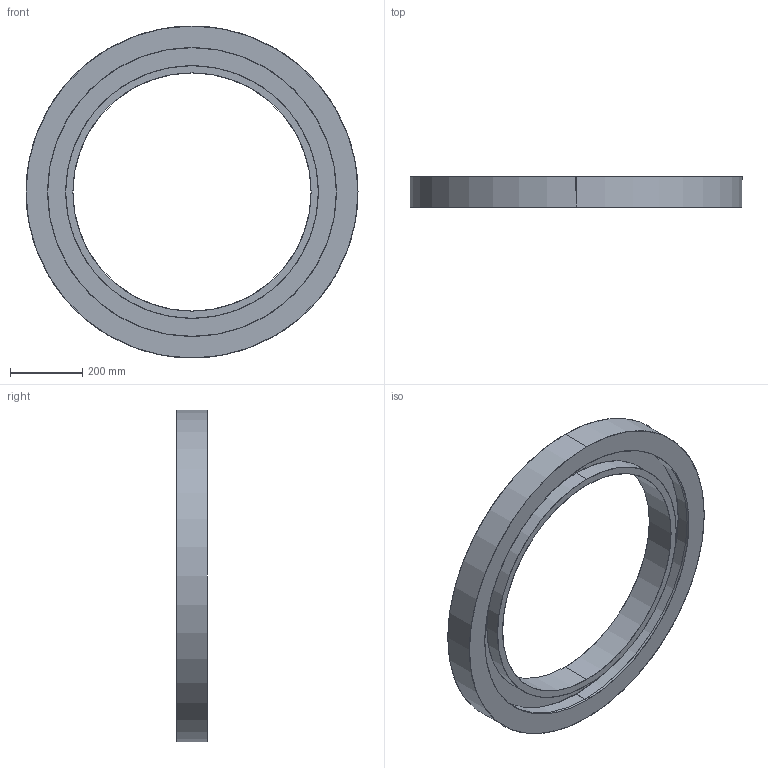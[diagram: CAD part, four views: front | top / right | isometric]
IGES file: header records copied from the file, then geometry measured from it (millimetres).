
Start section: SolidWorks IGES file using analytic representation for surfaces
Global section: file name: C:\Users\Stagiaire\Desktop\Rendu 3D\ANNEAU\3170_ANNEAU_80\3170_ANNEAU_80.IGS; native system: SolidWorks 2014; preprocessor: SolidWorks 2014; author: Stagiaire; date: 141006.152954; units: millimetre
Bounding box: 920 x 85 x 920 mm (x, y, z)
Surface area: 2432993 mm2 (no closed solid volume)
Topology: 0 solids, 0 shells, 58 faces, 1720 edges, 1720 vertices
Faces by surface type: revolution 46, bspline 12
